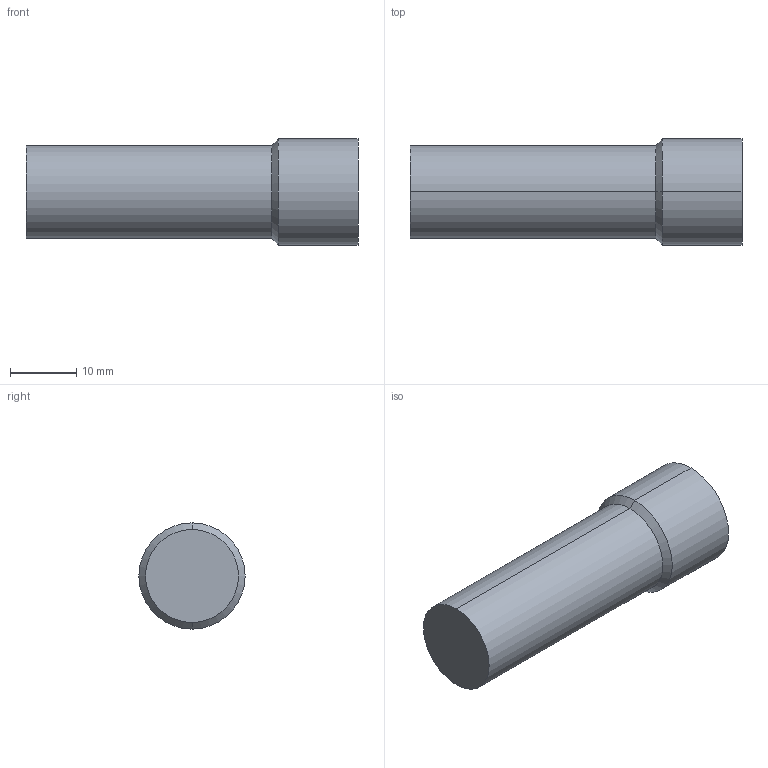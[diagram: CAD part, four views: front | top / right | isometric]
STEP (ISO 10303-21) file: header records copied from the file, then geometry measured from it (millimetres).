
FILE_DESCRIPTION (( 'STEP AP214' ), '1' );
FILE_NAME ('BR89-1-4x50.STEP', '2020-06-23T10:32:34', ( '' ), ( '' ), 'SwSTEP 2.0', 'SolidWorks 2018', '' );
FILE_SCHEMA (( 'AUTOMOTIVE_DESIGN' ));
Length unit declared in the file: millimetre
Products named in the file (1): BR89-1-4x50
Bounding box: 50 x 16 x 16 mm (x, y, z)
Volume: 7731.2 mm3; surface area: 2929.3 mm2
Topology: 1 solids, 1 shells, 15 faces, 32 edges, 20 vertices
Faces by surface type: plane 9, cylinder 4, cone 2
Entity records: 436 total; most frequent: DIRECTION 72, CARTESIAN_POINT 68, ORIENTED_EDGE 64, EDGE_CURVE 32, VECTOR 24, AXIS2_PLACEMENT_3D 24, LINE 24, VERTEX_POINT 20
